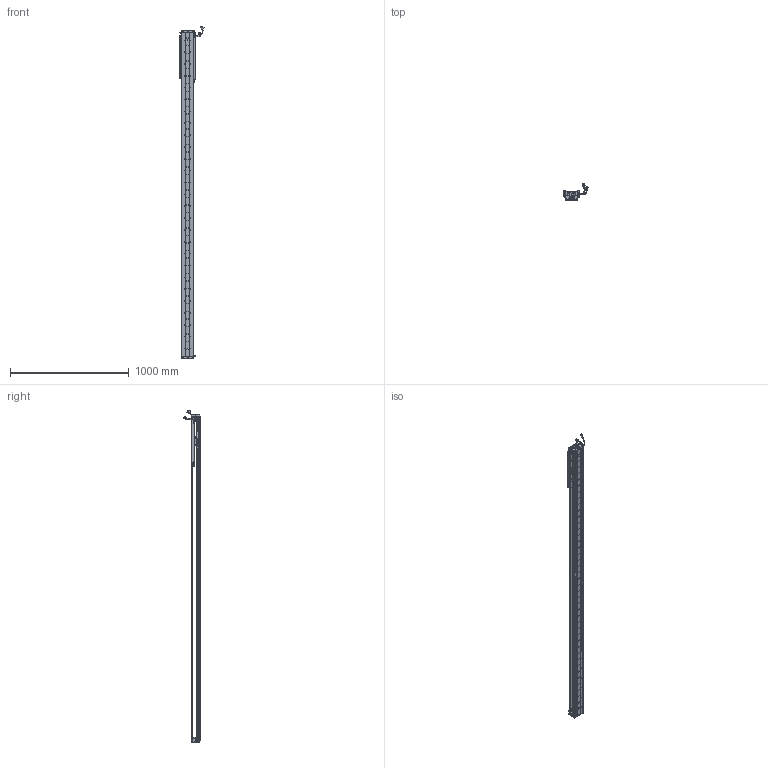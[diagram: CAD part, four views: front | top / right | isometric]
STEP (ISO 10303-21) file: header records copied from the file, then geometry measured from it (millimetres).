
FILE_DESCRIPTION (( 'STEP AP203' ), '1' );
FILE_NAME ('Z5-RY100D-1-L500-B-K.SLDASM_2300.step', '2021-05-17T03:34:47', ( '盈信电脑' ), ( '东莞市道滘镇水果街19号' ), 'SwSTEP 2.0', 'SolidWorks 2016', '' );
FILE_SCHEMA (( 'CONFIG_CONTROL_DESIGN' ));
Length unit declared in the file: millimetre
Products named in the file (36): Z5-RY100D-500-倰第菁釱_2300; 覜茼ん672; HARNESS; COVER; SCREW-M1.6-1; PSLH080_PSLF2; LABEL-Part-1; Z-RY100D詩湍狟揤裔; HARNESS-Part-1; HOLDER0; COVER-Part-1; Z-RY100D詩湍奻揤裔; SEAL-Part-1; SCREW-M1.6-3; SCREW-M1.7-1; LABEL; 100-Z-臏賑輸盄裔(21遴); SCALE; 140雄赽晤鎢ん堤盄; 140蚥薯蝶輸; SCALE-Part-1; PBU_SHEET; SCALE-Part-2; HARNESS-Part-2; Z5-RY100-L500詩湍90mm遵_2300; 榋妏寠巭燃_暯_M2_2; Z-100詩湍傷裔啣; SCREW-M1.6; Z5-RY100D-1-L500-B-K.SLDASM_2300; 080黍杅芛假蚾釱21遴; Z-RY100D覜茼んえ; SCREW-M1.6-2; SHIELDPLATE; Z5-RY100铝滑块（21款）; SCREW-M1.7; SEAL
Assembly tree (43 placements, depth 4):
  Z5-RY100D-1-L500-B-K.SLDASM_2300
    Z5-RY100D-500-倰第菁釱_2300
    Z5-RY100铝滑块（21款）
    PSLH080_PSLF2
      SCALE
        SCALE-Part-1
        SCALE-Part-2
      HARNESS
        HARNESS-Part-1
        HARNESS-Part-2
      LABEL
        LABEL-Part-1
      COVER
        COVER-Part-1
      SEAL
        SEAL-Part-1
      榋妏寠巭燃_暯_M2_2
      SHIELDPLATE
      SCREW-M1.7
      SCREW-M1.7-1
      PBU_SHEET
      SCREW-M1.6
      SCREW-M1.6-1
      SCREW-M1.6-2
      SCREW-M1.6-3
      HOLDER0
    080黍杅芛假蚾釱21遴
    Z-100詩湍傷裔啣  x2
    140蚥薯蝶輸  x2
    覜茼ん672  x3
    Z-RY100D覜茼んえ  x3
    100-Z-臏賑輸盄裔(21遴)
    140雄赽晤鎢ん堤盄
    Z5-RY100-L500詩湍90mm遵_2300
    Z-RY100D詩湍狟揤裔  x2
    Z-RY100D詩湍奻揤裔  x2
Bounding box: 205.79 x 136.11 x 2800.43 mm (x, y, z)
Volume: 5310260 mm3; surface area: 2058322 mm2
Topology: 38 solids, 38 shells, 3043 faces, 8317 edges, 5312 vertices
Faces by surface type: cylinder 1506, plane 1189, cone 226, torus 69, bspline 53
Entity records: 88379 total; most frequent: CARTESIAN_POINT 18487, DIRECTION 14275, ORIENTED_EDGE 13514, EDGE_CURVE 6757, AXIS2_PLACEMENT_3D 5376, VERTEX_POINT 4380, VECTOR 3523, LINE 3523
